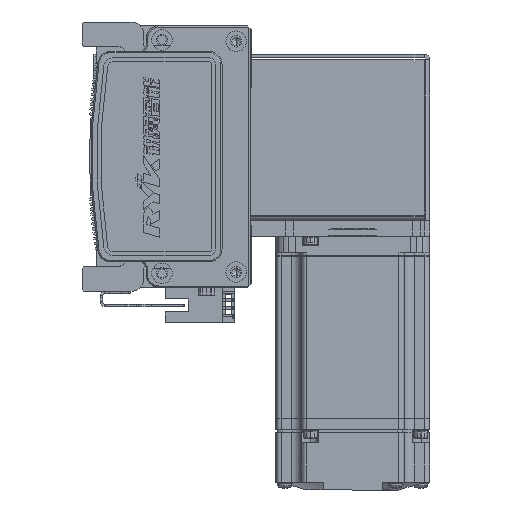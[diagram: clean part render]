
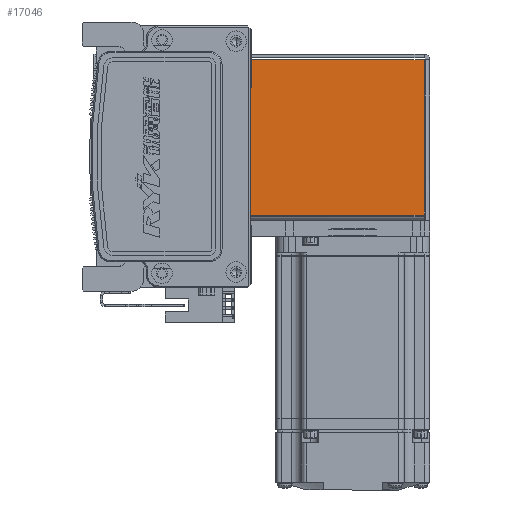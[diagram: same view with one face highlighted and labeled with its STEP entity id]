
A CAD part, left-side view. The second image highlights one B-rep face of the part: STEP entity #17046.
In plain terms, the highlighted planar face has unit normal (-1, 0, 0) as drawn and (0, 0, -1) by its records, which use the part's own axes.
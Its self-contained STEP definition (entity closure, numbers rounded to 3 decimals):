
#5552 = EDGE_CURVE ( 'NONE', #7876, #7881, #28377, .T. ) ;
#7219 = ORIENTED_EDGE ( 'NONE', *, *, #63365, .T. ) ;
#7876 = VERTEX_POINT ( 'NONE', #46695 ) ;
#7881 = VERTEX_POINT ( 'NONE', #49976 ) ;
#8806 = AXIS2_PLACEMENT_3D ( 'NONE', #9450, #49010, #15102 ) ;
#9450 = CARTESIAN_POINT ( 'NONE',  ( 0., 0., -35. ) ) ;
#9451 = CARTESIAN_POINT ( 'NONE',  ( -30.293, 72.5, -35. ) ) ;
#9812 = CARTESIAN_POINT ( 'NONE',  ( 0., 72.5, -35. ) ) ;
#11352 = VERTEX_POINT ( 'NONE', #19196 ) ;
#15102 = DIRECTION ( 'NONE',  ( 0., -1., 0. ) ) ;
#16492 = VECTOR ( 'NONE', #26337, 1000. ) ;
#17046 = ADVANCED_FACE ( 'NONE', ( #39139 ), #49253, .F. ) ;
#19196 = CARTESIAN_POINT ( 'NONE',  ( 30.263, 72.5, -35. ) ) ;
#19511 = VECTOR ( 'NONE', #31452, 1000. ) ;
#23110 = LINE ( 'NONE', #9812, #41688 ) ;
#26077 = CARTESIAN_POINT ( 'NONE',  ( 30.263, 72.5, -35. ) ) ;
#26337 = DIRECTION ( 'NONE',  ( 0., -1., 0. ) ) ;
#28377 = LINE ( 'NONE', #65345, #19511 ) ;
#29733 = ORIENTED_EDGE ( 'NONE', *, *, #39682, .T. ) ;
#31452 = DIRECTION ( 'NONE',  ( 1., 0., 0. ) ) ;
#32086 = DIRECTION ( 'NONE',  ( 0., 1., 0. ) ) ;
#35302 = EDGE_LOOP ( 'NONE', ( #7219, #72478, #36407, #29733 ) ) ;
#35514 = VERTEX_POINT ( 'NONE', #9451 ) ;
#36407 = ORIENTED_EDGE ( 'NONE', *, *, #47590, .T. ) ;
#39139 = FACE_OUTER_BOUND ( 'NONE', #35302, .T. ) ;
#39682 = EDGE_CURVE ( 'NONE', #35514, #11352, #23110, .T. ) ;
#41688 = VECTOR ( 'NONE', #62667, 1000. ) ;
#42176 = LINE ( 'NONE', #26077, #16492 ) ;
#43622 = VECTOR ( 'NONE', #32086, 1000. ) ;
#46695 = CARTESIAN_POINT ( 'NONE',  ( -30.293, 0.737, -35. ) ) ;
#47590 = EDGE_CURVE ( 'NONE', #7876, #35514, #56916, .T. ) ;
#49010 = DIRECTION ( 'NONE',  ( 0., 0., 1. ) ) ;
#49253 = PLANE ( 'NONE',  #8806 ) ;
#49976 = CARTESIAN_POINT ( 'NONE',  ( 30.263, 0.737, -35. ) ) ;
#56916 = LINE ( 'NONE', #60287, #43622 ) ;
#60287 = CARTESIAN_POINT ( 'NONE',  ( -30.293, 0., -35. ) ) ;
#62667 = DIRECTION ( 'NONE',  ( 1., 0., 0. ) ) ;
#63365 = EDGE_CURVE ( 'NONE', #11352, #7881, #42176, .T. ) ;
#65345 = CARTESIAN_POINT ( 'NONE',  ( 32.5, 0.737, -35. ) ) ;
#72478 = ORIENTED_EDGE ( 'NONE', *, *, #5552, .F. ) ;
